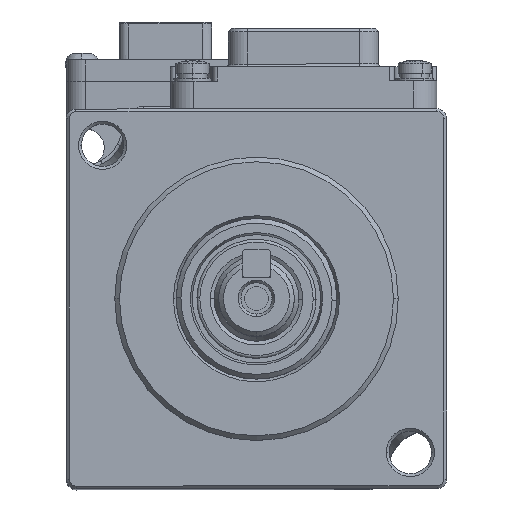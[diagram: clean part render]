
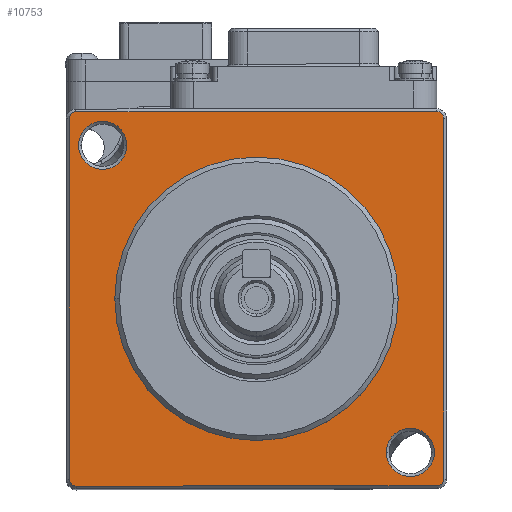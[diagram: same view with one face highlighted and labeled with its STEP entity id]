
A CAD part, top view. The second image highlights one B-rep face of the part: STEP entity #10753.
In plain terms, the highlighted planar face has unit normal (0, 0, 1).
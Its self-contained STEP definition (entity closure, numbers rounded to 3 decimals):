
#43 = VERTEX_POINT ( 'NONE', #35871 ) ;
#147 = PLANE ( 'NONE',  #7048 ) ;
#592 = DIRECTION ( 'NONE',  ( 1., 0.001, 0. ) ) ;
#771 = CIRCLE ( 'NONE', #35854, 15. ) ;
#1824 = EDGE_CURVE ( 'NONE', #15097, #24079, #16265, .T. ) ;
#1922 = LINE ( 'NONE', #36783, #21622 ) ;
#2372 = DIRECTION ( 'NONE',  ( 0., 0., 1. ) ) ;
#2379 = EDGE_CURVE ( 'NONE', #20156, #23707, #2894, .T. ) ;
#2765 = ORIENTED_EDGE ( 'NONE', *, *, #24624, .F. ) ;
#2838 = CARTESIAN_POINT ( 'NONE',  ( -17.715, 16.251, 12.173 ) ) ;
#2853 = FACE_BOUND ( 'NONE', #17155, .T. ) ;
#2894 = CIRCLE ( 'NONE', #13513, 0.7 ) ;
#3220 = VECTOR ( 'NONE', #38654, 1000. ) ;
#3471 = FACE_BOUND ( 'NONE', #9659, .T. ) ;
#3737 = DIRECTION ( 'NONE',  ( 0., 0., 1. ) ) ;
#4233 = EDGE_CURVE ( 'NONE', #39886, #17580, #8553, .T. ) ;
#4570 = VERTEX_POINT ( 'NONE', #29576 ) ;
#4698 = CIRCLE ( 'NONE', #14623, 2.55 ) ;
#5277 = DIRECTION ( 'NONE',  ( 1., 0.001, 0. ) ) ;
#5545 = EDGE_CURVE ( 'NONE', #23707, #19257, #7720, .T. ) ;
#5603 = DIRECTION ( 'NONE',  ( 1., 0.001, 0. ) ) ;
#5940 = ORIENTED_EDGE ( 'NONE', *, *, #26155, .F. ) ;
#6655 = DIRECTION ( 'NONE',  ( 0., 0., -1. ) ) ;
#6782 = CARTESIAN_POINT ( 'NONE',  ( 17.387, -16.249, 12.173 ) ) ;
#7029 = CARTESIAN_POINT ( 'NONE',  ( -1.439, 0., 12.173 ) ) ;
#7048 = AXIS2_PLACEMENT_3D ( 'NONE', #31053, #25037, #40425 ) ;
#7707 = CARTESIAN_POINT ( 'NONE',  ( -21.224, -19.115, 12.173 ) ) ;
#7720 = LINE ( 'NONE', #25962, #3220 ) ;
#7759 = DIRECTION ( 'NONE',  ( 0.001, -1., 0. ) ) ;
#8359 = DIRECTION ( 'NONE',  ( -0.001, 1., 0. ) ) ;
#8513 = ORIENTED_EDGE ( 'NONE', *, *, #39078, .F. ) ;
#8553 = CIRCLE ( 'NONE', #22487, 15. ) ;
#9152 = DIRECTION ( 'NONE',  ( 0., 0., -1. ) ) ;
#9254 = DIRECTION ( 'NONE',  ( 0., 0., 1. ) ) ;
#9444 = CIRCLE ( 'NONE', #32653, 0.7 ) ;
#9595 = VERTEX_POINT ( 'NONE', #31145 ) ;
#9659 = EDGE_LOOP ( 'NONE', ( #20124, #2765 ) ) ;
#10116 = DIRECTION ( 'NONE',  ( 1., 0.001, 0. ) ) ;
#10753 = ADVANCED_FACE ( 'NONE', ( #2853, #3471, #37693, #12183 ), #147, .T. ) ;
#11241 = EDGE_CURVE ( 'NONE', #24079, #20156, #1922, .T. ) ;
#11724 = DIRECTION ( 'NONE',  ( 0., 0., 1. ) ) ;
#11939 = ORIENTED_EDGE ( 'NONE', *, *, #2379, .F. ) ;
#12183 = FACE_BOUND ( 'NONE', #13229, .T. ) ;
#12227 = CARTESIAN_POINT ( 'NONE',  ( -20.553, 19.085, 12.173 ) ) ;
#12895 = EDGE_CURVE ( 'NONE', #4570, #38210, #34216, .T. ) ;
#12937 = AXIS2_PLACEMENT_3D ( 'NONE', #25118, #9152, #22017 ) ;
#13229 = EDGE_LOOP ( 'NONE', ( #27853, #23674 ) ) ;
#13513 = AXIS2_PLACEMENT_3D ( 'NONE', #12227, #36715, #5603 ) ;
#13549 = VERTEX_POINT ( 'NONE', #33333 ) ;
#14113 = CARTESIAN_POINT ( 'NONE',  ( 18.376, -19.085, 12.173 ) ) ;
#14623 = AXIS2_PLACEMENT_3D ( 'NONE', #32142, #3737, #592 ) ;
#14717 = LINE ( 'NONE', #30292, #37110 ) ;
#15097 = VERTEX_POINT ( 'NONE', #20989 ) ;
#15223 = AXIS2_PLACEMENT_3D ( 'NONE', #39022, #6655, #19698 ) ;
#15472 = DIRECTION ( 'NONE',  ( 1., 0.001, 0. ) ) ;
#15634 = ORIENTED_EDGE ( 'NONE', *, *, #18191, .F. ) ;
#15961 = VERTEX_POINT ( 'NONE', #14113 ) ;
#16116 = DIRECTION ( 'NONE',  ( 1., 0.001, 0. ) ) ;
#16265 = CIRCLE ( 'NONE', #12937, 0.7 ) ;
#17155 = EDGE_LOOP ( 'NONE', ( #8513, #37257 ) ) ;
#17297 = ORIENTED_EDGE ( 'NONE', *, *, #11241, .F. ) ;
#17528 = AXIS2_PLACEMENT_3D ( 'NONE', #2838, #9254, #15472 ) ;
#17580 = VERTEX_POINT ( 'NONE', #20698 ) ;
#18084 = EDGE_CURVE ( 'NONE', #15961, #36761, #33790, .T. ) ;
#18191 = EDGE_CURVE ( 'NONE', #36761, #15097, #14717, .T. ) ;
#18194 = VECTOR ( 'NONE', #7759, 1000. ) ;
#19257 = VERTEX_POINT ( 'NONE', #39603 ) ;
#19688 = ORIENTED_EDGE ( 'NONE', *, *, #18084, .F. ) ;
#19698 = DIRECTION ( 'NONE',  ( 1., 0.001, 0. ) ) ;
#20124 = ORIENTED_EDGE ( 'NONE', *, *, #39766, .F. ) ;
#20156 = VERTEX_POINT ( 'NONE', #34563 ) ;
#20698 = CARTESIAN_POINT ( 'NONE',  ( 13.561, 0.011, 12.173 ) ) ;
#20989 = CARTESIAN_POINT ( 'NONE',  ( -20.524, -19.815, 12.173 ) ) ;
#21034 = CARTESIAN_POINT ( 'NONE',  ( 14.837, -16.251, 12.173 ) ) ;
#21622 = VECTOR ( 'NONE', #8359, 1000. ) ;
#22017 = DIRECTION ( 'NONE',  ( 1., 0.001, 0. ) ) ;
#22146 = DIRECTION ( 'NONE',  ( 0., 0., -1. ) ) ;
#22487 = AXIS2_PLACEMENT_3D ( 'NONE', #7029, #34989, #10116 ) ;
#23674 = ORIENTED_EDGE ( 'NONE', *, *, #4233, .F. ) ;
#23707 = VERTEX_POINT ( 'NONE', #27519 ) ;
#23792 = CARTESIAN_POINT ( 'NONE',  ( -16.439, -0.011, 12.173 ) ) ;
#24079 = VERTEX_POINT ( 'NONE', #7707 ) ;
#24624 = EDGE_CURVE ( 'NONE', #9595, #13549, #28132, .T. ) ;
#24625 = CARTESIAN_POINT ( 'NONE',  ( 17.647, 19.115, 12.173 ) ) ;
#25037 = DIRECTION ( 'NONE',  ( 0., 0., 1. ) ) ;
#25118 = CARTESIAN_POINT ( 'NONE',  ( -20.524, -19.115, 12.173 ) ) ;
#25962 = CARTESIAN_POINT ( 'NONE',  ( -1.454, 19.8, 12.173 ) ) ;
#26155 = EDGE_CURVE ( 'NONE', #43, #15961, #39510, .T. ) ;
#27395 = EDGE_CURVE ( 'NONE', #17580, #39886, #771, .T. ) ;
#27519 = CARTESIAN_POINT ( 'NONE',  ( -20.554, 19.785, 12.173 ) ) ;
#27853 = ORIENTED_EDGE ( 'NONE', *, *, #27395, .F. ) ;
#28132 = CIRCLE ( 'NONE', #17528, 2.55 ) ;
#28536 = ORIENTED_EDGE ( 'NONE', *, *, #1824, .F. ) ;
#29576 = CARTESIAN_POINT ( 'NONE',  ( 12.287, -16.253, 12.173 ) ) ;
#29609 = AXIS2_PLACEMENT_3D ( 'NONE', #37447, #11724, #40995 ) ;
#30292 = CARTESIAN_POINT ( 'NONE',  ( -1.424, -19.8, 12.173 ) ) ;
#31053 = CARTESIAN_POINT ( 'NONE',  ( -1.45, 15., 12.173 ) ) ;
#31145 = CARTESIAN_POINT ( 'NONE',  ( -20.265, 16.249, 12.173 ) ) ;
#31568 = EDGE_LOOP ( 'NONE', ( #32371, #32218, #11939, #17297, #28536, #15634, #19688, #5940 ) ) ;
#31877 = DIRECTION ( 'NONE',  ( 0., 0., 1. ) ) ;
#32142 = CARTESIAN_POINT ( 'NONE',  ( -17.715, 16.251, 12.173 ) ) ;
#32218 = ORIENTED_EDGE ( 'NONE', *, *, #5545, .F. ) ;
#32371 = ORIENTED_EDGE ( 'NONE', *, *, #40610, .F. ) ;
#32653 = AXIS2_PLACEMENT_3D ( 'NONE', #24625, #22146, #34360 ) ;
#33333 = CARTESIAN_POINT ( 'NONE',  ( -15.165, 16.253, 12.173 ) ) ;
#33790 = CIRCLE ( 'NONE', #15223, 0.7 ) ;
#33900 = AXIS2_PLACEMENT_3D ( 'NONE', #21034, #2372, #5277 ) ;
#34216 = CIRCLE ( 'NONE', #29609, 2.55 ) ;
#34360 = DIRECTION ( 'NONE',  ( 1., 0.001, 0. ) ) ;
#34563 = CARTESIAN_POINT ( 'NONE',  ( -21.253, 19.085, 12.173 ) ) ;
#34790 = CARTESIAN_POINT ( 'NONE',  ( -1.439, 0., 12.173 ) ) ;
#34989 = DIRECTION ( 'NONE',  ( 0., 0., 1. ) ) ;
#35854 = AXIS2_PLACEMENT_3D ( 'NONE', #34790, #31877, #16116 ) ;
#35871 = CARTESIAN_POINT ( 'NONE',  ( 18.347, 19.115, 12.173 ) ) ;
#36168 = CARTESIAN_POINT ( 'NONE',  ( 18.346, 20.015, 12.173 ) ) ;
#36294 = DIRECTION ( 'NONE',  ( -1., -0.001, 0. ) ) ;
#36715 = DIRECTION ( 'NONE',  ( 0., 0., -1. ) ) ;
#36761 = VERTEX_POINT ( 'NONE', #40106 ) ;
#36783 = CARTESIAN_POINT ( 'NONE',  ( -21.254, 19.985, 12.173 ) ) ;
#37110 = VECTOR ( 'NONE', #36294, 1000. ) ;
#37257 = ORIENTED_EDGE ( 'NONE', *, *, #12895, .F. ) ;
#37447 = CARTESIAN_POINT ( 'NONE',  ( 14.837, -16.251, 12.173 ) ) ;
#37693 = FACE_OUTER_BOUND ( 'NONE', #31568, .T. ) ;
#38210 = VERTEX_POINT ( 'NONE', #6782 ) ;
#38654 = DIRECTION ( 'NONE',  ( 1., 0.001, 0. ) ) ;
#39022 = CARTESIAN_POINT ( 'NONE',  ( 17.676, -19.085, 12.173 ) ) ;
#39078 = EDGE_CURVE ( 'NONE', #38210, #4570, #39938, .T. ) ;
#39510 = LINE ( 'NONE', #36168, #18194 ) ;
#39603 = CARTESIAN_POINT ( 'NONE',  ( 17.646, 19.815, 12.173 ) ) ;
#39766 = EDGE_CURVE ( 'NONE', #13549, #9595, #4698, .T. ) ;
#39886 = VERTEX_POINT ( 'NONE', #23792 ) ;
#39938 = CIRCLE ( 'NONE', #33900, 2.55 ) ;
#40106 = CARTESIAN_POINT ( 'NONE',  ( 17.676, -19.785, 12.173 ) ) ;
#40425 = DIRECTION ( 'NONE',  ( 1., 0.001, 0. ) ) ;
#40610 = EDGE_CURVE ( 'NONE', #19257, #43, #9444, .T. ) ;
#40995 = DIRECTION ( 'NONE',  ( 1., 0.001, 0. ) ) ;
